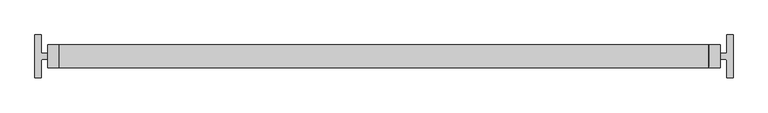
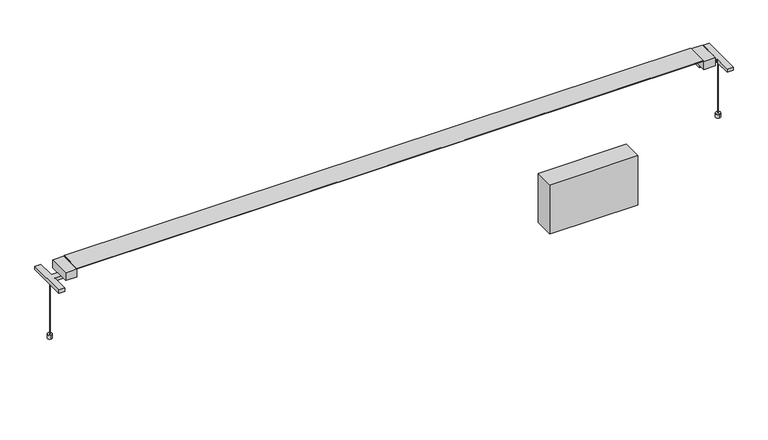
"""IFC4 building model written with IfcOpenShell, lengths in millimetres: light fixture geometry, Fabbian.Pivot F39 (F39 A01A 01,F39 A01A 21,F39 A01A 76,F39 A02A 01,F39 A02A 21,F39 A02A 76) : F39 A01A 01."""

from ifc_helpers import new_model, si_unit, point, frame, frame_2d, origin, origin_with_axes, place, context, project, spatial, polyline, circle_curve, trimmed, segment, composite_curve, outline, extrude, source, transform, mapped, element, save


def light_fixture_173045c4(model_context):
    return source(origin(), model_context, "Body", "SweptSolid", [
        extrude(outline(composite_curve([segment(trimmed(circle_curve(frame_2d((833.8362553, 0.0)), 0.4949808), [point((834.3312361, 0.0))], [point((833.3412745, 0.0))], False, "CARTESIAN"), True, "CONTINUOUS"), segment(trimmed(circle_curve(frame_2d((833.8362553, 0.0)), 0.4949808), [point((833.3412745, 0.0))], [point((834.3312361, 0.0))], False, "CARTESIAN"), True, "CONTINUOUS")], self_intersect=False)), origin_with_axes(), (0.0, 0.0, 1.0), 151.6242394),
        extrude(outline(composite_curve([segment(trimmed(circle_curve(frame_2d((-833.8362553, 0.0)), 0.4949808), [point((-834.3312361, 0.0))], [point((-833.3412745, 0.0))], False, "CARTESIAN"), True, "CONTINUOUS"), segment(trimmed(circle_curve(frame_2d((-833.8362553, 0.0)), 0.4949808), [point((-833.3412745, 0.0))], [point((-834.3312361, 0.0))], False, "CARTESIAN"), True, "CONTINUOUS")], self_intersect=False)), origin_with_axes(), (0.0, 0.0, 1.0), 151.6242394),
        extrude(outline(polyline([(619.1350388, -24.9666442), (399.1348055, -24.9666442), (399.1348055, 25.0334567), (619.1350388, 25.0334567), (619.1350388, -24.9666442)])), frame((0.0, 0.0, -142.875), z_axis=(0.0, 0.0, 1.0), x_axis=(1.0, 0.0, 0.0)), (0.0, 0.0, 1.0), 130.175),
        extrude(outline(polyline([(0.4107254, 159.893756), (0.4107254, 160.681594), (-0.4107259, 160.681594), (-0.4107259, 159.893756), (-25.5497693, 181.0787506), (26.3879175, 181.0787506), (0.4107254, 159.893756)])), frame((-782.3132834, 0.0, 0.0), z_axis=(1.0, 0.0, 0.0), x_axis=(0.0, 1.0, 0.0)), (0.0, 0.0, 1.0), 1564.6265668),
        extrude(outline(polyline([(-782.3132834, -27.7285043), (-810.5140956, -27.7285043), (-810.5140956, 27.7953166), (-782.3132834, 27.7953166), (-782.3132834, -27.7285043)])), frame((0.0, 0.0, 159.6242394), z_axis=(0.0, 0.0, 1.0), x_axis=(1.0, 0.0, 0.0)), (0.0, 0.0, 1.0), 20.8761838),
        extrude(outline(polyline([(782.3132834, -27.7285042), (782.3132834, 27.7953167), (810.5140956, 27.7953167), (810.5140956, -27.7285042), (782.3132834, -27.7285042)])), frame((0.0, 0.0, 159.6242394), z_axis=(0.0, 0.0, 1.0), x_axis=(1.0, 0.0, 0.0)), (0.0, 0.0, 1.0), 20.8761838),
        extrude(outline(polyline([(0.0, 0.8214513), (1564.6265668, 0.8214513), (1564.6265668, 0.0), (0.0, 0.0), (0.0, 0.8214513)])), frame((-782.3132834, -0.4107259, 159.893756), z_axis=(-5.7155291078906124e-11, 0.0, 1.0), x_axis=(1.0, 0.0, 5.7155291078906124e-11)), (0.0, 0.0, 1.0), 0.787838),
        extrude(outline(polyline([(781.7488887, 27.7780006), (781.7488887, -27.7779986), (-782.3132834, -27.7779986), (-782.3132834, 27.7780006), (781.7488887, 27.7780006)])), frame((0.0, 0.0, 181.0787506), z_axis=(0.0, 0.0, 1.0), x_axis=(1.0, 0.0, 0.0)), (0.0, 0.0, 1.0), 1.1514277),
        extrude(outline(composite_curve([segment(trimmed(circle_curve(frame_2d((833.836284, 0.4556113)), 5.8155806), [point((834.6639767, -5.3007681))], [point((833.0085914, 6.2119906))], False, "CARTESIAN"), True, "CONTINUOUS"), segment(trimmed(circle_curve(frame_2d((833.836284, 0.4556113)), 5.8155806), [point((833.0085914, 6.2119906))], [point((834.6639767, -5.3007681))], False, "CARTESIAN"), True, "CONTINUOUS")], self_intersect=False)), origin_with_axes(), (0.0, 0.0, 1.0), 9.6582083),
        extrude(outline(composite_curve([segment(trimmed(circle_curve(frame_2d((-833.836284, 0.4556113)), 5.8155806), [point((-834.6639767, -5.3007681))], [point((-833.0085914, 6.2119906))], False, "CARTESIAN"), True, "CONTINUOUS"), segment(trimmed(circle_curve(frame_2d((-833.836284, 0.4556113)), 5.8155806), [point((-833.0085914, 6.2119906))], [point((-834.6639767, -5.3007681))], False, "CARTESIAN"), True, "CONTINUOUS")], self_intersect=False)), origin_with_axes(), (0.0, 0.0, 1.0), 9.6582083),
        extrude(outline(composite_curve([segment(polyline([(826.3132834, 51.5), (841.3132834, 51.5), (841.3132834, -51.5), (826.3132834, -51.5), (826.3132834, -9.5)]), True, "CONTINUOUS"), segment(trimmed(circle_curve(frame_2d((824.3132834, -9.5)), 2.0), [point((826.3132834, -9.5))], [point((824.3132834, -7.5))], True, "CARTESIAN"), True, "CONTINUOUS"), segment(polyline([(824.3132834, -7.5), (782.3132834, -7.5), (782.3132834, 7.5), (824.3132834, 7.5)]), True, "CONTINUOUS"), segment(trimmed(circle_curve(frame_2d((824.3132834, 9.5)), 2.0), [point((824.3132834, 7.5))], [point((826.3132834, 9.5))], True, "CARTESIAN"), True, "CONTINUOUS"), segment(polyline([(826.3132834, 9.5), (826.3132834, 51.5)]), True, "CONTINUOUS")], self_intersect=False)), frame((0.0, 0.0, 151.6242394), z_axis=(0.0, 0.0, 1.0), x_axis=(1.0, 0.0, 0.0)), (0.0, 0.0, 1.0), 8.0),
        extrude(outline(composite_curve([segment(polyline([(-826.3132834, 51.5), (-826.3132834, 9.5)]), True, "CONTINUOUS"), segment(trimmed(circle_curve(frame_2d((-824.3132834, 9.5)), 2.0), [point((-826.3132834, 9.5))], [point((-824.3132834, 7.5))], True, "CARTESIAN"), True, "CONTINUOUS"), segment(polyline([(-824.3132834, 7.5), (-782.3132834, 7.5), (-782.3132834, -7.5), (-824.3132834, -7.5)]), True, "CONTINUOUS"), segment(trimmed(circle_curve(frame_2d((-824.3132834, -9.5)), 2.0), [point((-824.3132834, -7.5))], [point((-826.3132834, -9.5))], True, "CARTESIAN"), True, "CONTINUOUS"), segment(polyline([(-826.3132834, -9.5), (-826.3132834, -51.5), (-841.3132834, -51.5), (-841.3132834, 51.5), (-826.3132834, 51.5)]), True, "CONTINUOUS")], self_intersect=False)), frame((0.0, 0.0, 151.6242394), z_axis=(0.0, 0.0, 1.0), x_axis=(1.0, 0.0, 0.0)), (0.0, 0.0, 1.0), 8.0),
    ])


if __name__ == "__main__":
    model = new_model("IFC4")
    model_context = context("Model", 3, world=origin())
    ifc_project = project(units=[si_unit("LENGTHUNIT", "METRE", prefix="MILLI")], contexts=[model_context])
    site = spatial("IfcSite", under=ifc_project)
    building = spatial("IfcBuilding", under=site)
    placement = place(None, origin())
    light_fixture_shape = light_fixture_173045c4(model_context)
    element("IfcLightFixture", 1, ObjectType="Fabbian.Pivot F39 (F39 A01A 01,F39 A01A 21,F39 A01A 76,F39 A02A 01,F39 A02A 21,F39 A02A 76) : F39 A01A 01", at=placement, inside=building, context=model_context, shape_type="MappedRepresentation", body=[
        mapped(light_fixture_shape, transform((0.0, 0.0, 0.0), x_axis=(1.0, 0.0, 0.0), y_axis=(0.0, 1.0, 0.0), z_axis=(0.0, 0.0, 1.0))),
    ])
    save(model, "model.ifc")
